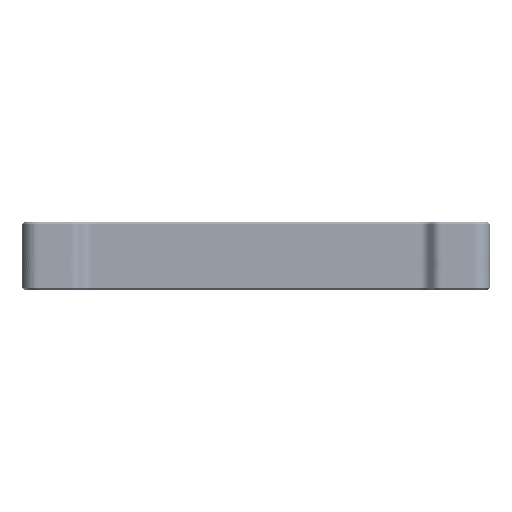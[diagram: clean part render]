
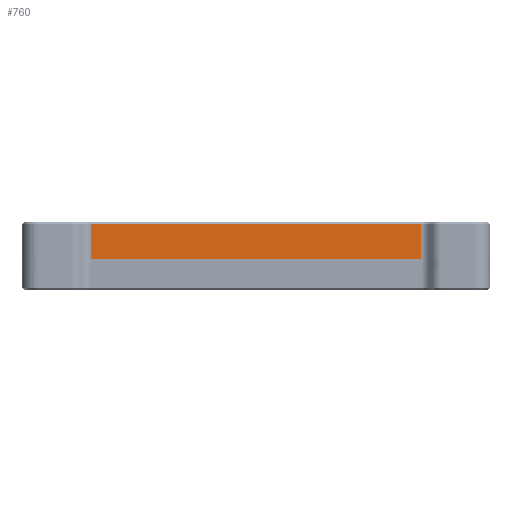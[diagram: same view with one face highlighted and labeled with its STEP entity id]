
A CAD part, front view. The second image highlights one B-rep face of the part: STEP entity #760.
In plain terms, the highlighted planar face has unit normal (0, -1, 0) as drawn and (0, 0, -1) by its records, which use the part's own axes.
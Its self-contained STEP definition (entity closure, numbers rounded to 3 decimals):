
#760 = ADVANCED_FACE ( 'NONE', ( #15949 ), #62618, .F. ) ;
#7476 = VERTEX_POINT ( 'NONE', #86859 ) ;
#8332 = ORIENTED_EDGE ( 'NONE', *, *, #16871, .F. ) ;
#12386 = EDGE_CURVE ( 'NONE', #7476, #54732, #32295, .T. ) ;
#15108 = VERTEX_POINT ( 'NONE', #127670 ) ;
#15949 = FACE_OUTER_BOUND ( 'NONE', #115006, .T. ) ;
#16116 = ORIENTED_EDGE ( 'NONE', *, *, #67433, .T. ) ;
#16871 = EDGE_CURVE ( 'NONE', #64625, #15108, #107567, .T. ) ;
#18654 = CARTESIAN_POINT ( 'NONE',  ( 12., 6.75, 2. ) ) ;
#26485 = DIRECTION ( 'NONE',  ( 0., 0., 1. ) ) ;
#32295 = LINE ( 'NONE', #127375, #104409 ) ;
#39098 = CARTESIAN_POINT ( 'NONE',  ( 12.828, 6.75, 2. ) ) ;
#39433 = AXIS2_PLACEMENT_3D ( 'NONE', #49123, #26485, #107084 ) ;
#49123 = CARTESIAN_POINT ( 'NONE',  ( 12., 6.75, 2. ) ) ;
#54732 = VERTEX_POINT ( 'NONE', #80777 ) ;
#62189 = DIRECTION ( 'NONE',  ( 0., 1., 0. ) ) ;
#62618 = PLANE ( 'NONE',  #39433 ) ;
#64625 = VERTEX_POINT ( 'NONE', #136664 ) ;
#67329 = DIRECTION ( 'NONE',  ( 0., -1., 0. ) ) ;
#67433 = EDGE_CURVE ( 'NONE', #64625, #7476, #123253, .T. ) ;
#69919 = VECTOR ( 'NONE', #62189, 1000. ) ;
#76778 = VECTOR ( 'NONE', #134002, 1000. ) ;
#77104 = ORIENTED_EDGE ( 'NONE', *, *, #12386, .T. ) ;
#80777 = CARTESIAN_POINT ( 'NONE',  ( 12.828, 0.3, 2. ) ) ;
#86859 = CARTESIAN_POINT ( 'NONE',  ( 74.372, 0.3, 2. ) ) ;
#92187 = DIRECTION ( 'NONE',  ( -1., 0., 0. ) ) ;
#92653 = VECTOR ( 'NONE', #67329, 1000. ) ;
#104409 = VECTOR ( 'NONE', #92187, 1000. ) ;
#107084 = DIRECTION ( 'NONE',  ( 1., 0., 0. ) ) ;
#107567 = LINE ( 'NONE', #18654, #76778 ) ;
#115006 = EDGE_LOOP ( 'NONE', ( #16116, #77104, #116283, #8332 ) ) ;
#116283 = ORIENTED_EDGE ( 'NONE', *, *, #145114, .T. ) ;
#123253 = LINE ( 'NONE', #147966, #92653 ) ;
#127375 = CARTESIAN_POINT ( 'NONE',  ( 12.828, 0.3, 2. ) ) ;
#127582 = LINE ( 'NONE', #39098, #69919 ) ;
#127670 = CARTESIAN_POINT ( 'NONE',  ( 12.828, 6.75, 2. ) ) ;
#134002 = DIRECTION ( 'NONE',  ( -1., 0., 0. ) ) ;
#136664 = CARTESIAN_POINT ( 'NONE',  ( 74.372, 6.75, 2. ) ) ;
#145114 = EDGE_CURVE ( 'NONE', #54732, #15108, #127582, .T. ) ;
#147966 = CARTESIAN_POINT ( 'NONE',  ( 74.372, 0., 2. ) ) ;
